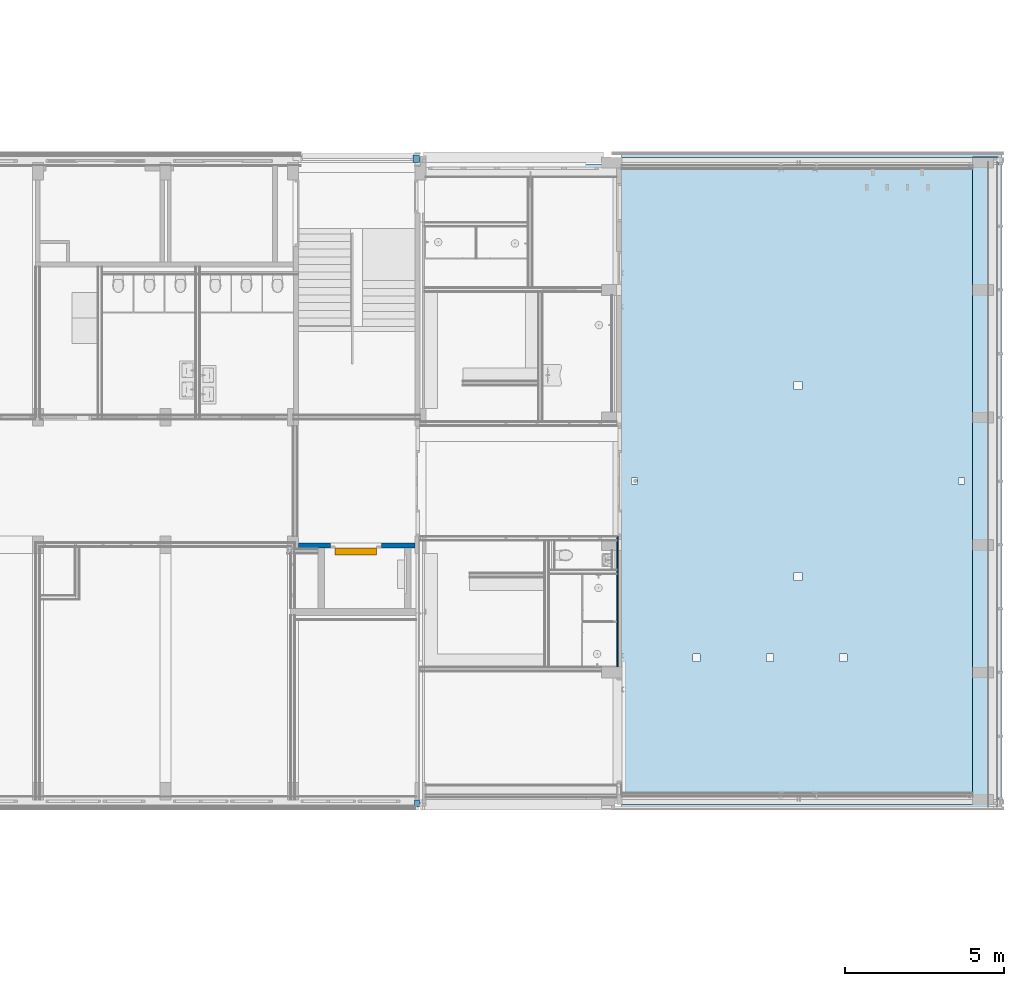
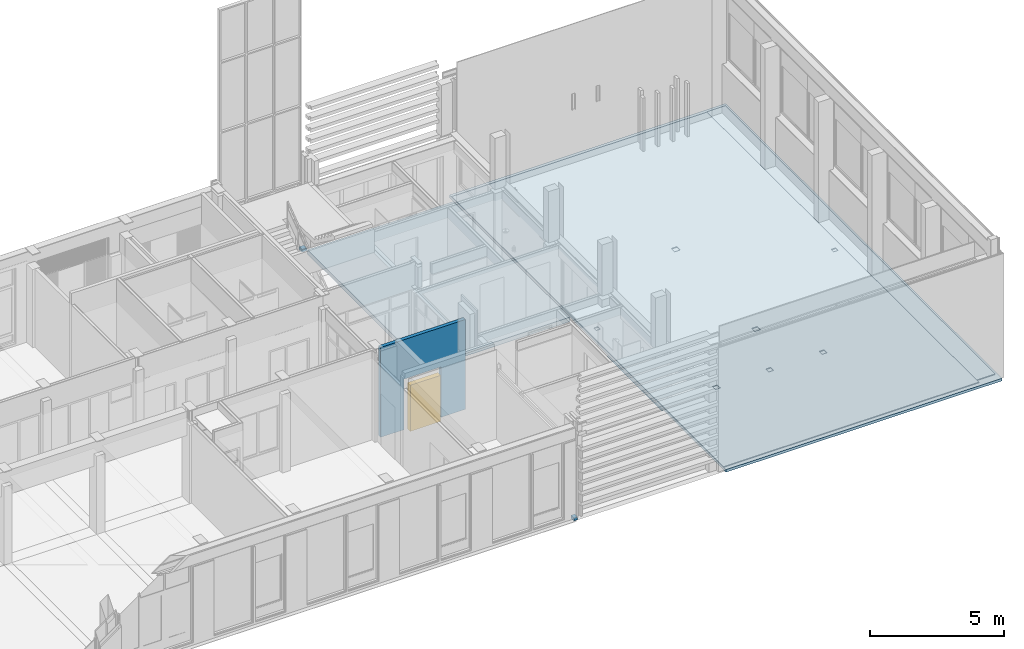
# One storey, part 1 of 109: 7 slabs, 1 door, 1 wall, 9 openings.
"""IFC2X3 building model written with IfcOpenShell, lengths in millimetres."""

from ifc_helpers import new_model, entity, si_unit, converted_unit, derived_unit, money_unit, direction, frame, origin_with_axes, place, context, subcontext, project, spatial, faceted_brep, source, transform, mapped, material, type_object, type_shapes, element, fill, save


model = new_model("IFC2X3")

# Units and contexts
model_context = context("Model", 3, precision=0.01, world=origin_with_axes(), true_north=direction((0.0, 1.0)))
body_context = subcontext(model_context, "Body", "Model", "MODEL_VIEW")
ifc_project = project(units=[si_unit("LENGTHUNIT", "METRE", prefix="MILLI"), si_unit("AREAUNIT", "SQUARE_METRE"), si_unit("VOLUMEUNIT", "CUBIC_METRE"), converted_unit("PLANEANGLEUNIT", "DEGREE", entity("IfcPlaneAngleMeasure", 0.0174532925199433), si_unit("PLANEANGLEUNIT", "RADIAN"), dimensions=[0, 0, 0, 0, 0, 0, 0]), money_unit("EUR"), converted_unit("TIMEUNIT", "Year", entity("IfcTimeMeasure", 31557600.0), si_unit("TIMEUNIT", "SECOND"), dimensions=[0, 0, 1, 0, 0, 0, 0]), si_unit("MASSUNIT", "GRAM", prefix="KILO"), si_unit("THERMODYNAMICTEMPERATUREUNIT", "DEGREE_CELSIUS"), si_unit("LUMINOUSINTENSITYUNIT", "LUMEN"), si_unit("ENERGYUNIT", "JOULE", prefix="MEGA"), derived_unit("THERMALCONDUCTANCEUNIT", [(si_unit("POWERUNIT", "WATT"), 1), (si_unit("LENGTHUNIT", "METRE"), -1), (si_unit("THERMODYNAMICTEMPERATUREUNIT", "KELVIN"), -1)]), derived_unit("SPECIFICHEATCAPACITYUNIT", [(si_unit("ENERGYUNIT", "JOULE"), 1), (si_unit("MASSUNIT", "GRAM", prefix="KILO"), -1), (si_unit("THERMODYNAMICTEMPERATUREUNIT", "KELVIN"), -1)]), derived_unit("MASSDENSITYUNIT", [(si_unit("MASSUNIT", "GRAM", prefix="KILO"), 1), (si_unit("VOLUMEUNIT", "CUBIC_METRE"), -1)])], contexts=[model_context])

# Site, building, storey
site_placement = place(None, origin_with_axes())
site = spatial("IfcSite", under=ifc_project, at=site_placement, Name="<site naam>", CompositionType="ELEMENT")
building_placement = place(site_placement, origin_with_axes())
building = spatial("IfcBuilding", under=site, at=building_placement, Name="<Naam gebouw>", CompositionType="ELEMENT")
storey_placement = place(building_placement, origin_with_axes())
storey = spatial("IfcBuildingStorey", under=building, at=storey_placement, Name="00 Begane grond", CompositionType="ELEMENT", Elevation=0.0)

# Slabs
ifc_material_1 = material(Name="beton_gewapend_vloer C")
slab_type_1 = type_object("IfcSlabType", Name="beton_gewapend_vloer C  200", PredefinedType="NOTDEFINED")
slab_1_placement = place(storey_placement, frame((51978.99993868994, 11250.00000000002, -80.00000000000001), z_axis=(0.0, 0.0, 1.0), x_axis=(1.0, 0.0, 0.0)))
element("IfcSlab", 1, at=slab_1_placement, inside=storey, type_object=slab_type_1, material=ifc_material_1, Name="23_Vloer_beton_gewapend_vloer", PredefinedType="NOTDEFINED", context=body_context, shape_type="Brep", body=[
    faceted_brep([(0.0, 0.0, 0.0), (0.0, 0.0, -200.0), (6288.783032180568, 0.0, -200.0), (6288.783032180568, 0.0, 0.0), (0.0, 8699.954684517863, 0.0), (0.0, 8699.954684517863, -200.0), (6288.783032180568, 8699.954684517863, -200.0), (6288.783032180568, 8699.954684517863, 0.0)], [[[0, 1, 2, 3]], [[4, 5, 1, 0]], [[2, 1, 5, 6]], [[3, 2, 6, 7]], [[4, 0, 3, 7]], [[7, 6, 5, 4]]]),
])
slab_type_2 = type_object("IfcSlabType", Name="beton_gewapend_vloer C  120", PredefinedType="NOTDEFINED")
slab_2_placement = place(storey_placement, frame((70225.00000000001, -324.0893218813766, -30.0), z_axis=(0.0, 0.0, 1.0), x_axis=(1.0, 0.0, 0.0)))
element("IfcSlab", 2, at=slab_2_placement, inside=storey, type_object=slab_type_2, material=ifc_material_1, Name="23_Vloer_beton_gewapend_vloer", PredefinedType="NOTDEFINED", context=body_context, shape_type="Brep", body=[
    faceted_brep([(0.0, 0.0, 0.0), (0.0, 0.0, -120.0), (0.0, 20659.08932188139, -120.0), (0.0, 20659.08932188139, 0.0), (-11907.21715529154, 0.0, 0.0), (-11907.21715529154, 0.0, -120.0), (-11907.21715529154, 20659.08932188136, -120.0), (-11907.21715529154, 20659.08932188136, 0.0)], [[[0, 1, 2, 3]], [[4, 5, 1, 0]], [[2, 1, 5, 6]], [[3, 2, 6, 7]], [[4, 0, 3, 7]], [[7, 6, 5, 4]]]),
])
slab_3_placement = place(storey_placement, frame((51774.9999990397, 20225.00656230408, -30.0), z_axis=(0.0, 0.0, 1.0), x_axis=(1.0, 0.0, 0.0)))
element("IfcSlab", 3, at=slab_3_placement, inside=storey, type_object=slab_type_2, material=ifc_material_1, Name="23_Vloer_beton_gewapend_vloer", PredefinedType="NOTDEFINED", context=body_context, shape_type="Brep", body=[
    faceted_brep([(0.0, 0.0, 0.0), (0.0, 0.0, -120.0), (0.0, -225.000036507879, -120.0), (0.0, -225.000036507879, 0.0), (203.9999396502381, 0.0, 0.0), (203.9999396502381, 0.0, -120.0), (203.9999396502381, -225.000036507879, -120.0), (203.9999396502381, -225.000036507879, 0.0)], [[[0, 1, 2, 3]], [[4, 5, 1, 0]], [[2, 1, 5, 6]], [[3, 2, 6, 7]], [[4, 0, 3, 7]], [[7, 6, 5, 4]]]),
])
slab_4_placement = place(storey_placement, frame((51978.99993868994, 0.006598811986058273, -30.0), z_axis=(0.0, 0.0, 1.0), x_axis=(1.0, 0.0, 0.0)))
element("IfcSlab", 4, at=slab_4_placement, inside=storey, type_object=slab_type_2, material=ifc_material_1, Name="23_Vloer_beton_gewapend_vloer", PredefinedType="NOTDEFINED", context=body_context, shape_type="Brep", body=[
    faceted_brep([(0.0, 0.0, 0.0), (0.0, 0.0, -120.0), (-163.9999873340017, 0.0, -120.0), (-163.9999873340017, 0.0, 0.0), (0.0, -225.0000365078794, 0.0), (0.0, -225.0000365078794, -120.0), (-163.9999873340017, -225.0000365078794, -120.0), (-163.9999873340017, -225.0000365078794, 0.0)], [[[0, 1, 2, 3]], [[4, 5, 1, 0]], [[2, 1, 5, 6]], [[3, 2, 6, 7]], [[4, 0, 3, 7]], [[7, 6, 5, 4]]]),
])

# Slab, openings
ifc_material_2 = material(Name="beton")
slab_type_3 = type_object("IfcSlabType", Name="beton 30", PredefinedType="NOTDEFINED")
slab_5_placement = place(storey_placement, frame((69324.99999999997, -324.0893218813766, -30.00000000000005), z_axis=(0.0, 0.0, 1.0), x_axis=(1.0, 0.0, 0.0)))
slab_5 = element("IfcSlab", 5, at=slab_5_placement, inside=storey, type_object=slab_type_3, material=ifc_material_2, Name="23_Vloer_beton", PredefinedType="NOTDEFINED", context=body_context, shape_type="Brep", body=[
    faceted_brep([(0.0, 20484.08932188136, 30.00000000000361), (-11007.21715529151, 20484.08932188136, 30.00000000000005), (-11007.21715529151, 175.0000000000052, 29.99999858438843), (0.0, 175.0000000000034, 29.99999858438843), (0.0, 20484.08932188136, 0.0), (-11007.21715529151, 20484.08932188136, 0.0), (-11007.21715529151, 175.0000000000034, 0.0), (0.0, 175.0000000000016, 0.0)], [[[0, 1, 2, 3]], [[4, 5, 1, 0]], [[1, 5, 6, 2]], [[2, 6, 7, 3]], [[4, 0, 3, 7]], [[5, 4, 7, 6]]]),
])
opening_1_placement = place(slab_5_placement, frame((-69324.99999999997, 324.0893218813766, 30.00000000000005), z_axis=(0.0, 0.0, 1.0), x_axis=(1.0, 0.0, 0.0)))
element("IfcOpeningElement", 6, at=opening_1_placement, cuts=slab_5, Name="23_Opening_", context=body_context, shape_type="Brep", body=[
    faceted_brep([(63721.24207000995, 7130.45093231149, -60.00000000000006), (63721.24207000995, 6880.45093231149, -60.00000000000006), (63721.24207000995, 6880.45093231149, 29.99999999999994), (63721.24207000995, 7130.45093231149, 29.99999999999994), (63971.24207000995, 7130.45093231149, -60.00000000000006), (63971.24207000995, 6880.45093231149, -60.00000000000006), (63971.24207000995, 6880.45093231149, 29.99999999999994), (63971.24207000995, 7130.45093231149, 29.99999999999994)], [[[0, 1, 2, 3]], [[0, 4, 5, 1]], [[1, 5, 6, 2]], [[3, 2, 6, 7]], [[4, 0, 3, 7]], [[5, 4, 7, 6]]]),
])
opening_2_placement = place(slab_5_placement, frame((-69324.99999999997, 324.0893218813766, 30.00000000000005), z_axis=(0.0, 0.0, 1.0), x_axis=(1.0, 0.0, 0.0)))
element("IfcOpeningElement", 7, at=opening_2_placement, cuts=slab_5, Name="23_Opening_", context=body_context, shape_type="Brep", body=[
    faceted_brep([(63721.24207000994, 12880.45093231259, -60.00000000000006), (63971.24207000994, 12880.45093231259, -60.00000000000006), (63971.24207000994, 12880.45093231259, 29.99999999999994), (63721.24207000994, 12880.45093231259, 29.99999999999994), (63721.24207000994, 13130.45093231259, -60.00000000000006), (63971.24207000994, 13130.45093231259, -60.00000000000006), (63971.24207000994, 13130.45093231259, 29.99999999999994), (63721.24207000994, 13130.45093231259, 29.99999999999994)], [[[0, 1, 2, 3]], [[0, 4, 5, 1]], [[1, 5, 6, 2]], [[3, 2, 6, 7]], [[4, 0, 3, 7]], [[5, 4, 7, 6]]]),
])
opening_3_placement = place(slab_5_placement, frame((-69324.99999999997, 324.0893218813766, 30.00000000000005), z_axis=(0.0, 0.0, 1.0), x_axis=(1.0, 0.0, 0.0)))
element("IfcOpeningElement", 8, at=opening_3_placement, cuts=slab_5, Name="23_Opening_", context=body_context, shape_type="Brep", body=[
    faceted_brep([(65153.74207001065, 4347.950932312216, -60.00000000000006), (65378.7420700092, 4347.950932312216, -60.00000000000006), (65378.7420700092, 4347.950932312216, 29.99999999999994), (65153.74207001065, 4347.950932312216, 29.99999999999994), (65153.74207001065, 4572.95093231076, -60.00000000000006), (65378.7420700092, 4572.95093231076, -60.00000000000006), (65378.7420700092, 4572.95093231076, 29.99999999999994), (65153.74207001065, 4572.95093231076, 29.99999999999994)], [[[0, 1, 2, 3]], [[0, 4, 5, 1]], [[1, 5, 6, 2]], [[3, 2, 6, 7]], [[4, 0, 3, 7]], [[5, 4, 7, 6]]]),
])
opening_4_placement = place(slab_5_placement, frame((-69324.99999999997, 324.0893218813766, 30.00000000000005), z_axis=(0.0, 0.0, 1.0), x_axis=(1.0, 0.0, 0.0)))
element("IfcOpeningElement", 9, at=opening_4_placement, cuts=slab_5, Name="23_Opening_", context=body_context, shape_type="Brep", body=[
    faceted_brep([(62853.74207001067, 4347.950932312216, -60.00000000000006), (63078.74207000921, 4347.950932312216, -60.00000000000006), (63078.74207000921, 4347.950932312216, 29.99999999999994), (62853.74207001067, 4347.950932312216, 29.99999999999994), (62853.74207001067, 4572.95093231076, -60.00000000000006), (63078.74207000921, 4572.95093231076, -60.00000000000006), (63078.74207000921, 4572.95093231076, 29.99999999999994), (62853.74207001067, 4572.95093231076, 29.99999999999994)], [[[0, 1, 2, 3]], [[0, 4, 5, 1]], [[1, 5, 6, 2]], [[3, 2, 6, 7]], [[4, 0, 3, 7]], [[5, 4, 7, 6]]]),
])
opening_5_placement = place(slab_5_placement, frame((-69324.99999999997, 324.0893218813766, 30.00000000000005), z_axis=(0.0, 0.0, 1.0), x_axis=(1.0, 0.0, 0.0)))
element("IfcOpeningElement", 10, at=opening_5_placement, cuts=slab_5, Name="23_Opening_", context=body_context, shape_type="Brep", body=[
    faceted_brep([(60553.74207001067, 4347.950932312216, -60.00000000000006), (60778.74207000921, 4347.950932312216, -60.00000000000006), (60778.74207000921, 4347.950932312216, 29.99999999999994), (60553.74207001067, 4347.950932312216, 29.99999999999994), (60553.74207001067, 4572.95093231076, -60.00000000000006), (60778.74207000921, 4572.95093231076, -60.00000000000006), (60778.74207000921, 4572.95093231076, 29.99999999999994), (60553.74207001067, 4572.95093231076, 29.99999999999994)], [[[0, 1, 2, 3]], [[0, 4, 5, 1]], [[1, 5, 6, 2]], [[3, 2, 6, 7]], [[4, 0, 3, 7]], [[5, 4, 7, 6]]]),
])
opening_6_placement = place(slab_5_placement, frame((-69324.99999999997, 324.0893218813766, 30.00000000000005), z_axis=(0.0, 0.0, 1.0), x_axis=(1.0, 0.0, 0.0)))
element("IfcOpeningElement", 11, at=opening_6_placement, cuts=slab_5, Name="23_Opening_", context=body_context, shape_type="Brep", body=[
    faceted_brep([(58626.2420700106, 9910.450932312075, -60.00000000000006), (58816.24207000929, 9910.450932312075, -60.00000000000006), (58816.24207000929, 9910.450932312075, 29.99999999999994), (58626.2420700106, 9910.450932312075, 29.99999999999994), (58626.2420700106, 10100.45093231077, -60.00000000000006), (58816.24207000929, 10100.45093231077, -60.00000000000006), (58816.24207000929, 10100.45093231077, 29.99999999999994), (58626.2420700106, 10100.45093231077, 29.99999999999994)], [[[0, 1, 2, 3]], [[0, 4, 5, 1]], [[1, 5, 6, 2]], [[3, 2, 6, 7]], [[4, 0, 3, 7]], [[5, 4, 7, 6]]]),
])
opening_7_placement = place(slab_5_placement, frame((-69324.99999999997, 324.0893218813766, 30.00000000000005), z_axis=(0.0, 0.0, 1.0), x_axis=(1.0, 0.0, 0.0)))
element("IfcOpeningElement", 12, at=opening_7_placement, cuts=slab_5, Name="23_Opening_", context=body_context, shape_type="Brep", body=[
    faceted_brep([(68876.24207001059, 9910.450932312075, -60.00000000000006), (69066.24207000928, 9910.450932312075, -60.00000000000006), (69066.24207000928, 9910.450932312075, 29.99999999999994), (68876.24207001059, 9910.450932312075, 29.99999999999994), (68876.24207001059, 10100.45093231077, -60.00000000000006), (69066.24207000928, 10100.45093231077, -60.00000000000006), (69066.24207000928, 10100.45093231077, 29.99999999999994), (68876.24207001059, 10100.45093231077, 29.99999999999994)], [[[0, 1, 2, 3]], [[0, 4, 5, 1]], [[1, 5, 6, 2]], [[3, 2, 6, 7]], [[4, 0, 3, 7]], [[5, 4, 7, 6]]]),
])

# Slabs
ifc_material_3 = material(Name="beton_gewapend_prefab vloer")
slab_type_4 = type_object("IfcSlabType", Name="beton_gewapend_prefab vloer 30", PredefinedType="NOTDEFINED")
slab_6_placement = place(storey_placement, frame((70125.00000000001, 10.91067811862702, -30.0), z_axis=(0.0, 0.0, 1.0), x_axis=(1.0, 0.0, 0.0)))
element("IfcSlab", 13, at=slab_6_placement, inside=storey, type_object=slab_type_4, material=ifc_material_3, Name="23_Vloer_beton_gewapend_prefab", PredefinedType="NOTDEFINED", context=body_context, shape_type="Brep", body=[
    faceted_brep([(0.0, 0.0, 30.0), (0.0, 0.0, 0.0), (0.0, 20164.08932188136, 0.0), (0.0, 20164.08932188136, 30.0), (-800.0000000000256, 0.0, 30.0), (-800.0000000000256, 0.0, 0.0), (-800.0000000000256, 20164.08932188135, 0.0), (-800.0000000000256, 20164.08932188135, 30.0)], [[[0, 1, 2, 3]], [[4, 5, 1, 0]], [[2, 1, 5, 6]], [[3, 2, 6, 7]], [[4, 0, 3, 7]], [[7, 6, 5, 4]]]),
])
ifc_material_4 = material(Name="Zwevende dekvloer")
slab_type_5 = type_object("IfcSlabType", Name="Zwevende dekvloer 30", PredefinedType="NOTDEFINED")
slab_7_placement = place(storey_placement, frame((58203.78275397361, 8275.000015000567, 0.0), z_axis=(0.0, 0.0, 1.0), x_axis=(1.0, 0.0, 0.0)))
element("IfcSlab", 14, at=slab_7_placement, inside=storey, type_object=slab_type_5, material=ifc_material_4, Name="23_Vloer_Zwevende", PredefinedType="NOTDEFINED", context=body_context, shape_type="Brep", body=[
    faceted_brep([(0.0, 0.0, 0.0), (0.0, 0.0, -30.0), (-45.99990979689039, 0.0, -30.0), (-45.99990979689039, 0.0, 0.0), (0.0, -4100.000128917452, 0.0), (0.0, -4100.000128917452, -30.0), (-45.99990979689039, -4100.000128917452, -30.0), (-45.99990979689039, -4100.000128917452, 0.0)], [[[0, 1, 2, 3]], [[4, 5, 1, 0]], [[2, 1, 5, 6]], [[3, 2, 6, 7]], [[4, 0, 3, 7]], [[7, 6, 5, 4]]]),
])

# Wall, openings, door
ifc_material_5 = material(Name="kalkzandsteen")
wall_type = type_object("IfcWallType", Name="kalkzandsteen 150", PredefinedType="NOTDEFINED")
wall_placement = place(storey_placement, frame((51825.00000000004, 7904.999998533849, 0.0), z_axis=(0.0, 0.0, 1.0), x_axis=(-1.0, 0.0, 0.0)))
wall = element("IfcWall", 15, at=wall_placement, inside=storey, type_object=wall_type, material=ifc_material_5, Name="22_Binnenwand_kalkzandsteen", context=body_context, shape_type="Brep", body=[
    faceted_brep([(3650.000000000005, -150.0000000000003, 4100.000000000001), (0.0, -150.0000000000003, 4100.000000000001), (0.0, -150.0000000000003, 0.0), (3650.000000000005, -150.0000000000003, 0.0), (0.0, 0.0, 4100.000000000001), (3650.000000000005, 0.0, 4100.000000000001), (0.0, 0.0, 0.0), (3650.000000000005, 0.0, 0.0)], [[[0, 1, 2, 3]], [[4, 1, 0, 5]], [[1, 4, 6, 2]], [[2, 6, 7, 3]], [[5, 0, 3, 7]], [[4, 5, 7, 6]]]),
])
opening_8_placement = place(wall_placement, frame((1844.999999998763, 0.0, 0.0), z_axis=(0.0, 0.0, 1.0), x_axis=(1.0, 0.0, 0.0)))
opening_8 = element("IfcOpeningElement", 16, at=opening_8_placement, cuts=wall, Name="22_liftdeur_305", context=body_context, shape_type="Brep", body=[
    faceted_brep([(649.9999999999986, 1.000000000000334, 2100.0), (649.9999999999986, 1.000000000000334, 0.0), (-649.9999999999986, 1.000000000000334, 0.0), (-649.9999999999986, 1.000000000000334, 2100.0), (649.9999999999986, -150.9999999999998, 2100.0), (649.9999999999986, -150.9999999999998, 0.0), (-649.9999999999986, -150.9999999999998, 0.0), (-649.9999999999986, -150.9999999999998, 2100.0)], [[[0, 1, 2, 3]], [[4, 5, 1, 0]], [[5, 6, 2, 1]], [[6, 7, 3, 2]], [[7, 4, 0, 3]], [[6, 5, 4, 7]]]),
])
opening_9_placement = place(wall_placement, frame((1844.999999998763, 0.0, 0.0), z_axis=(0.0, 0.0, 1.0), x_axis=(1.0, 0.0, 0.0)))
element("IfcOpeningElement", 17, at=opening_9_placement, cuts=wall, Name="22__305", context=body_context, shape_type="Brep", body=[
    faceted_brep([(-799.9999999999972, -150.9999999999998, 2300.0), (-799.9999999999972, -150.9999999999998, 0.0), (799.9999999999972, -150.9999999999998, 0.0), (799.9999999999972, -150.9999999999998, 2300.0), (-799.9999999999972, 1.000000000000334, 2300.0), (-799.9999999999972, 1.000000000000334, 0.0), (799.9999999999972, 1.000000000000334, 0.0), (799.9999999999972, 1.000000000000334, 2300.0)], [[[0, 1, 2, 3]], [[4, 5, 1, 0]], [[5, 6, 2, 1]], [[6, 7, 3, 2]], [[7, 4, 0, 3]], [[6, 5, 4, 7]]]),
])
door_style = type_object("IfcDoorStyle", Name="DS1 voor wand 27", ConstructionType="NOTDEFINED", OperationType="SLIDING_TO_LEFT", ParameterTakesPrecedence=False, Sizeable=False)
shared_shape = source(origin_with_axes(), body_context, "Body", "Brep", [
    faceted_brep([(-650.0, 365.0, 0.0), (650.0, 365.0, 0.0), (650.0, 155.0, 0.0), (-650.0, 155.0, 0.0), (-650.0, 364.9999999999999, 2100.0), (650.0, 364.9999999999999, 2100.0), (650.0, 154.9999999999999, 2100.0), (-650.0, 154.9999999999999, 2100.0)], [[[0, 1, 2, 3]], [[0, 4, 5, 1]], [[1, 5, 6, 2]], [[3, 2, 6, 7]], [[4, 0, 3, 7]], [[5, 4, 7, 6]]]),
])
type_shapes(door_style, [shared_shape])
door_placement = place(opening_8_placement, frame((-649.9999999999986, 0.0, 0.0), z_axis=(0.0, 0.0, 1.0), x_axis=(1.0, 0.0, 0.0)))
door = element("IfcDoor", 18, at=door_placement, inside=storey, type_object=door_style, Name="22_liftdeur_305", ObjectType="DOOR", OverallHeight=2100.0, OverallWidth=1300.0, context=body_context, shape_type="MappedRepresentation", body=[
    mapped(shared_shape, transform((649.9999999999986, -150.0000000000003, 0.0))),
])
fill(opening_8, door)

save(model, "model.ifc")
